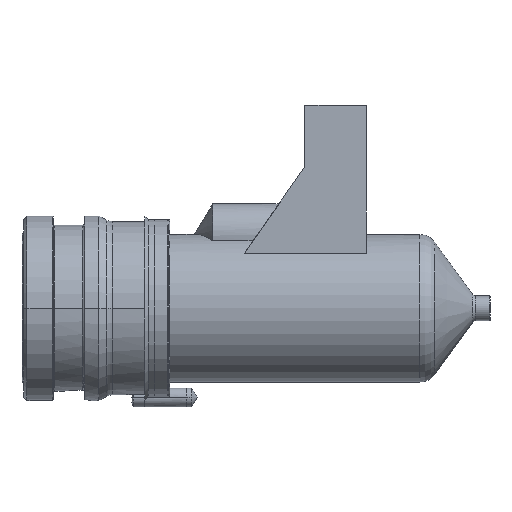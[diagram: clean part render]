
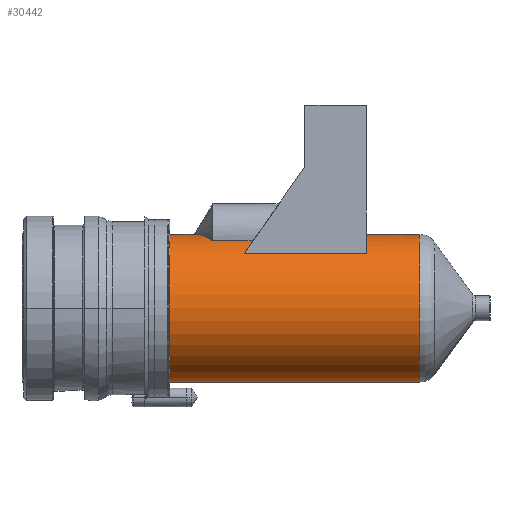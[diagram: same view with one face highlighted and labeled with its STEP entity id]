
A CAD part, left-side view. The second image highlights one B-rep face of the part: STEP entity #30442.
In plain terms, the highlighted cylindrical face has radius 12 mm (diameter 24 mm), a partial arc.
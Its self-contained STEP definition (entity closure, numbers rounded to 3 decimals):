
#29771=DIRECTION('',(0.,-1.,0.));
#29772=VECTOR('',#29771,19.842);
#29773=CARTESIAN_POINT('',(-8.,-36.158,8.944));
#29774=LINE('',#29773,#29772);
#29778=CARTESIAN_POINT('',(-4.89,-37.568,
10.958));
#29779=CARTESIAN_POINT('',(-5.478,-37.385,
10.696));
#29780=CARTESIAN_POINT('',(-6.58,-36.962,
10.092));
#29781=CARTESIAN_POINT('',(-7.548,-36.441,
9.349));
#29782=CARTESIAN_POINT('',(-8.,-36.158,8.944));
#29796=CARTESIAN_POINT('',(0.,-24.,0.));
#29797=DIRECTION('',(0.,1.,0.));
#29798=DIRECTION('',(0.,0.,-1.));
#29799=AXIS2_PLACEMENT_3D('',#29796,#29797,#29798);
#29819=CARTESIAN_POINT('',(0.,-56.,0.));
#29820=DIRECTION('',(0.,-1.,0.));
#29821=DIRECTION('',(0.,0.,1.));
#29822=AXIS2_PLACEMENT_3D('',#29819,#29820,#29821);
#29876=DIRECTION('',(0.,1.,0.));
#29877=VECTOR('',#29876,4.);
#29878=CARTESIAN_POINT('',(0.,-28.,12.));
#29879=LINE('',#29878,#29877);
#29891=DIRECTION('',(0.,1.,0.));
#29892=VECTOR('',#29891,40.671);
#29893=CARTESIAN_POINT('',(0.,-64.671,-12.));
#29894=LINE('',#29893,#29892);
#29898=DIRECTION('',(0.,1.,0.));
#29899=VECTOR('',#29898,8.671);
#29900=CARTESIAN_POINT('',(0.,-64.671,12.));
#29901=LINE('',#29900,#29899);
#29912=CARTESIAN_POINT('',(-4.89,-37.568,
10.958));
#29941=DIRECTION('',(0.,-1.,0.));
#29942=VECTOR('',#29941,6.564);
#29943=CARTESIAN_POINT('',(-4.89,-31.004,
10.958));
#29944=LINE('',#29943,#29942);
#29957=CARTESIAN_POINT('',(0.,-28.,12.));
#29970=CARTESIAN_POINT('',(0.,-28.,12.));
#29971=CARTESIAN_POINT('',(-0.24,-28.144,12.));
#29972=CARTESIAN_POINT('',(-0.72,-28.433,
11.986));
#29973=CARTESIAN_POINT('',(-1.438,-28.865,
11.921));
#29974=CARTESIAN_POINT('',(-2.151,-29.297,
11.813));
#29975=CARTESIAN_POINT('',(-2.855,-29.727,
11.663));
#29976=CARTESIAN_POINT('',(-3.549,-30.155,
11.471));
#29977=CARTESIAN_POINT('',(-4.229,-30.582,
11.238));
#29978=CARTESIAN_POINT('',(-4.672,-30.864,
11.056));
#29979=CARTESIAN_POINT('',(-4.89,-31.004,
10.958));
#30190=CARTESIAN_POINT('',(0.,-64.671,0.));
#30191=DIRECTION('',(0.,-1.,0.));
#30192=DIRECTION('',(0.,0.,1.));
#30193=AXIS2_PLACEMENT_3D('',#30190,#30191,#30192);
#30330=CARTESIAN_POINT('',(-8.,-36.158,8.944));
#30331=VERTEX_POINT('',#30330);
#30332=CARTESIAN_POINT('',(-8.,-56.,8.944));
#30333=VERTEX_POINT('',#30332);
#30338=VERTEX_POINT('',#29912);
#30340=CARTESIAN_POINT('',(-4.89,-31.004,
10.958));
#30342=VERTEX_POINT('',#30340);
#30348=CARTESIAN_POINT('',(0.,-64.671,-12.));
#30349=CARTESIAN_POINT('',(0.,-24.,-12.));
#30350=VERTEX_POINT('',#30348);
#30351=VERTEX_POINT('',#30349);
#30356=CARTESIAN_POINT('',(0.,-24.,12.));
#30357=VERTEX_POINT('',#30356);
#30366=CARTESIAN_POINT('',(0.,-64.671,12.));
#30367=VERTEX_POINT('',#30366);
#30377=CARTESIAN_POINT('',(0.,-56.,12.));
#30378=VERTEX_POINT('',#30377);
#30379=VERTEX_POINT('',#29957);
#30417=CARTESIAN_POINT('',(0.,-17.2,0.));
#30418=DIRECTION('',(0.,-1.,0.));
#30419=DIRECTION('',(0.,0.,1.));
#30420=AXIS2_PLACEMENT_3D('',#30417,#30418,#30419);
#30421=CYLINDRICAL_SURFACE('',#30420,12.);
#30422=ORIENTED_EDGE('',*,*,#30393,.T.);
#30424=ORIENTED_EDGE('',*,*,#30423,.F.);
#30426=ORIENTED_EDGE('',*,*,#30425,.F.);
#30428=ORIENTED_EDGE('',*,*,#30427,.T.);
#30430=ORIENTED_EDGE('',*,*,#30429,.T.);
#30432=ORIENTED_EDGE('',*,*,#30431,.T.);
#30434=ORIENTED_EDGE('',*,*,#30433,.F.);
#30436=ORIENTED_EDGE('',*,*,#30435,.T.);
#30438=ORIENTED_EDGE('',*,*,#30437,.T.);
#30439=ORIENTED_EDGE('',*,*,#30404,.T.);
#30440=EDGE_LOOP('',(#30422,#30424,#30426,#30428,#30430,#30432,#30434,#30436,
#30438,#30439));
#30441=FACE_OUTER_BOUND('',#30440,.F.);
#30442=ADVANCED_FACE('',(#30441),#30421,.T.);
#29783=B_SPLINE_CURVE_WITH_KNOTS('',3,(#29778,#29779,#29780,#29781,#29782),
.UNSPECIFIED.,.F.,.F.,(4,1,4),(0.,0.5,1.),.UNSPECIFIED.);
#29800=CIRCLE('',#29799,12.);
#29823=CIRCLE('',#29822,12.);
#29980=B_SPLINE_CURVE_WITH_KNOTS('',3,(#29970,#29971,#29972,#29973,#29974,
#29975,#29976,#29977,#29978,#29979),.UNSPECIFIED.,.F.,.F.,(4,1,1,1,1,1,1,4),(
0.,0.143,0.286,0.429,0.571,
0.714,0.857,1.),.UNSPECIFIED.);
#30194=CIRCLE('',#30193,12.);
#30393=EDGE_CURVE('',#30331,#30333,#29774,.T.);
#30404=EDGE_CURVE('',#30338,#30331,#29783,.T.);
#30423=EDGE_CURVE('',#30378,#30333,#29823,.T.);
#30425=EDGE_CURVE('',#30367,#30378,#29901,.T.);
#30427=EDGE_CURVE('',#30367,#30350,#30194,.T.);
#30429=EDGE_CURVE('',#30350,#30351,#29894,.T.);
#30431=EDGE_CURVE('',#30351,#30357,#29800,.T.);
#30433=EDGE_CURVE('',#30379,#30357,#29879,.T.);
#30435=EDGE_CURVE('',#30379,#30342,#29980,.T.);
#30437=EDGE_CURVE('',#30342,#30338,#29944,.T.);
